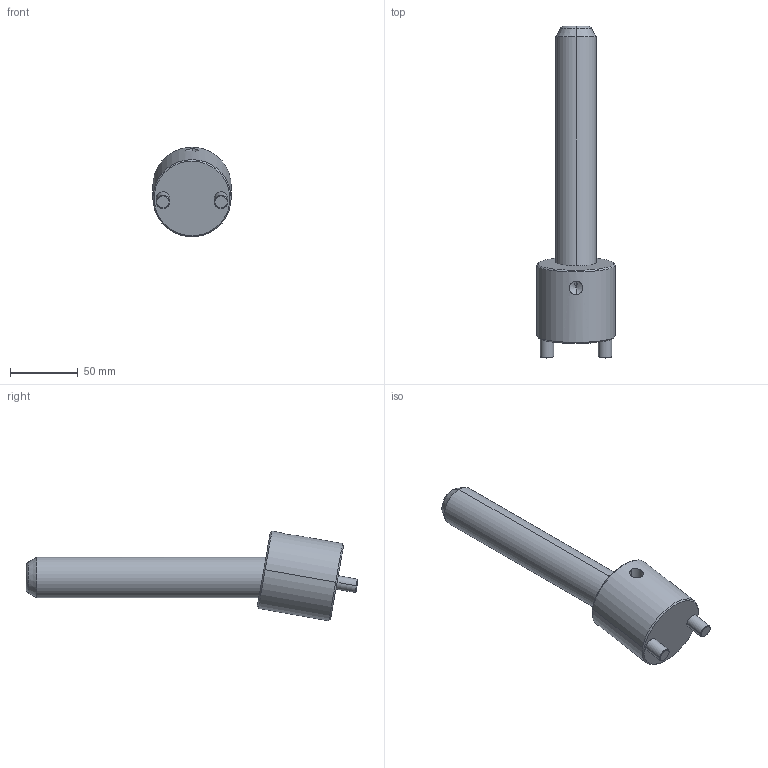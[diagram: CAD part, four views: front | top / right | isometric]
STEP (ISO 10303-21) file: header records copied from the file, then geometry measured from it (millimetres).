
FILE_DESCRIPTION(('CATIA V5 STEP Exchange'),'2;1');
FILE_NAME('C:\Users\Raffaele\Desktop\3D BOLEX\3D FILES CF BOLEX\19-INCLINED ASSEMBLY REF_CI\CI1030175.stp','2019-06-21T13:59:56+00:00',('none'),('none'),'CATIA Version 5 Release 20 GA (IN-10)','CATIA V5 STEP AP203','none');
FILE_SCHEMA(('CONFIG_CONTROL_DESIGN'));
Length unit declared in the file: millimetre
Products named in the file (1): CI1030175
Assembly tree (2 placements, depth 2):
  CI1030175
    #58
    #590
Bounding box: 58 x 245.76 x 66.32 mm (x, y, z)
Volume: 267308.2 mm3; surface area: 42621.4 mm2
Topology: 2 solids, 2 shells, 39 faces, 82 edges, 47 vertices
Faces by surface type: cone 14, cylinder 14, plane 7, torus 4
Entity records: 1545 total; most frequent: CARTESIAN_POINT 682, ORIENTED_EDGE 160, DIRECTION 147, EDGE_CURVE 80, AXIS2_PLACEMENT_3D 74, VERTEX_POINT 47, EDGE_LOOP 43, ADVANCED_FACE 39
